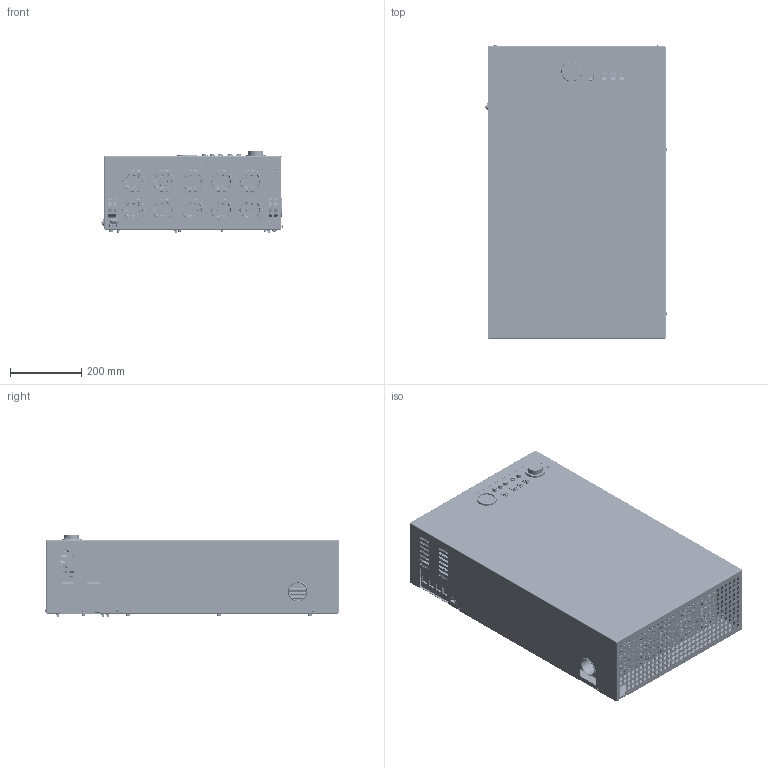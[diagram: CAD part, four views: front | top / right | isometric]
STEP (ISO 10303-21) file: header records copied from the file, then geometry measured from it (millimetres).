
FILE_DESCRIPTION(/* description */ (''),/* implementation_level */ '2;1');
FILE_NAME(/* name */ 'Y:\Конструкторский отдел\!Сборки\621179.013 КЭН-У10_Shrinkwrap_1.stp',/* time_stamp */ '2023-10-17T14:42:38+03:00',/* author */ ('nvsk-constr5'),/* organization */ (''),/* preprocessor_version */ 'ST-DEVELOPER v18.1',/* originating_system */ 'Autodesk Inventor 2021',/* authorisation */ '');
FILE_SCHEMA (('AUTOMOTIVE_DESIGN { 1 0 10303 214 3 1 1 }','TECHNICAL_DATA_PACKAGING','PROCESS_PLANNING_SCHEMA','AP242_MANAGED_MODEL_BASED_3D_ENGINEERING_MIM_LF { 1 0 10303 442 1 1 4 }'));
Products named in the file (1): 621179.013 КЭН-У10_Shrink
wrap_1
Bounding box: 509.62 x 823.12 x 231.9 mm (x, y, z)
Surface area: 4358234 mm2 (no closed solid volume)
Topology: 0 solids, 430 shells, 3390 faces, 14631 edges, 11538 vertices
Faces by surface type: plane 1729, cylinder 1231, cone 233, torus 88, bspline 79, sphere 30
Full cylindrical faces by diameter (mm): 0.8 x1, 3.242 x11, 3.5 x4, 3.65 x1, 4 x7, 4.317 x1, 4.4 x4, 4.5 x1, 4.8 x1, 4.9 x4, 5 x60, 5.459 x3, 5.9 x21, 6 x4, 6.5 x2, 6.6 x2, 7.834 x1, 8 x9, 8.7 x6, 8.9 x5, 9 x21, 10 x118, 10.5 x60, 11 x326, 11.4 x1, 11.433 x1, 11.5 x5, 12 x10, 13 x1, 14 x5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
Entity records: 163889 total; most frequent: CARTESIAN_POINT 38254, DIRECTION 24896, ORIENTED_EDGE 21397, EDGE_CURVE 14633, VERTEX_POINT 11545, LINE 9110, VECTOR 9110, AXIS2_PLACEMENT_3D 7893
